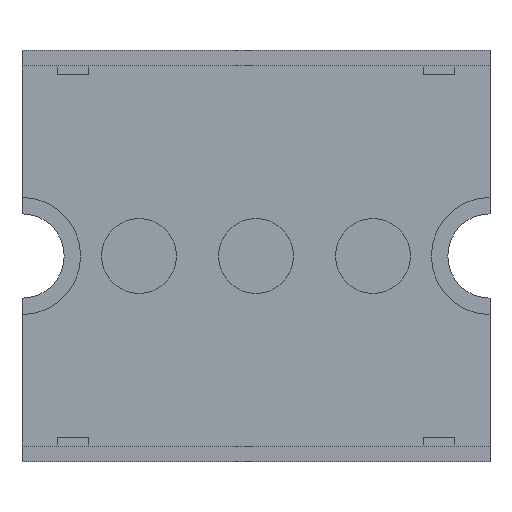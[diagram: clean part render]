
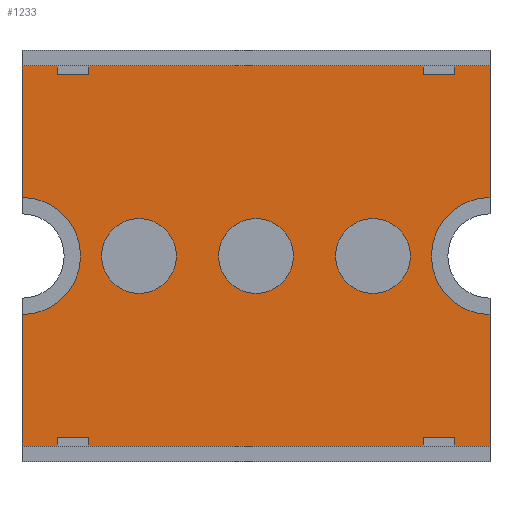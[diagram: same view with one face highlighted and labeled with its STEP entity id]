
A CAD part, front view. The second image highlights one B-rep face of the part: STEP entity #1233.
In plain terms, the highlighted planar face has unit normal (0, -1, 0).
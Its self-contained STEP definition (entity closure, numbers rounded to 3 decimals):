
#4 = CARTESIAN_POINT ( 'NONE',  ( 5., 10., 0. ) ) ;
#45 = CARTESIAN_POINT ( 'NONE',  ( 30., 10., 0. ) ) ;
#63 = AXIS2_PLACEMENT_3D ( 'NONE', #1517, #1527, #862 ) ;
#77 = DIRECTION ( 'NONE',  ( 0., -1., 0. ) ) ;
#96 = EDGE_CURVE ( 'NONE', #410, #577, #1102, .T. ) ;
#106 = ORIENTED_EDGE ( 'NONE', *, *, #1727, .F. ) ;
#107 = CARTESIAN_POINT ( 'NONE',  ( 55., 10., 20.3 ) ) ;
#108 = DIRECTION ( 'NONE',  ( 0., 0., -1. ) ) ;
#116 = DIRECTION ( 'NONE',  ( 0., 0., -1. ) ) ;
#122 = EDGE_CURVE ( 'NONE', #1842, #1272, #1357, .T. ) ;
#136 = CIRCLE ( 'NONE', #1299, 6.25 ) ;
#155 = ORIENTED_EDGE ( 'NONE', *, *, #96, .F. ) ;
#163 = DIRECTION ( 'NONE',  ( 0., 0., -1. ) ) ;
#164 = DIRECTION ( 'NONE',  ( 1., 0., 0. ) ) ;
#211 = ORIENTED_EDGE ( 'NONE', *, *, #122, .F. ) ;
#216 = ORIENTED_EDGE ( 'NONE', *, *, #406, .F. ) ;
#271 = AXIS2_PLACEMENT_3D ( 'NONE', #1509, #77, #559 ) ;
#303 = EDGE_CURVE ( 'NONE', #1368, #695, #1144, .T. ) ;
#319 = DIRECTION ( 'NONE',  ( 0., 0., -1. ) ) ;
#339 = CARTESIAN_POINT ( 'NONE',  ( -50., 10., -20.3 ) ) ;
#356 = VERTEX_POINT ( 'NONE', #1652 ) ;
#369 = AXIS2_PLACEMENT_3D ( 'NONE', #650, #1612, #163 ) ;
#406 = EDGE_CURVE ( 'NONE', #356, #1327, #934, .T. ) ;
#410 = VERTEX_POINT ( 'NONE', #1019 ) ;
#443 = CARTESIAN_POINT ( 'NONE',  ( 5., 10., 20.3 ) ) ;
#446 = EDGE_CURVE ( 'NONE', #1030, #1718, #1795, .T. ) ;
#459 = EDGE_CURVE ( 'NONE', #577, #410, #1234, .T. ) ;
#466 = ORIENTED_EDGE ( 'NONE', *, *, #1856, .T. ) ;
#513 = EDGE_LOOP ( 'NONE', ( #1392, #1504 ) ) ;
#552 = DIRECTION ( 'NONE',  ( 0., 0., -1. ) ) ;
#553 = VECTOR ( 'NONE', #1067, 1000. ) ;
#559 = DIRECTION ( 'NONE',  ( 0., 0., -1. ) ) ;
#560 = DIRECTION ( 'NONE',  ( 0., -1., 0. ) ) ;
#563 = CIRCLE ( 'NONE', #1534, 4. ) ;
#564 = DIRECTION ( 'NONE',  ( 0., 0., -1. ) ) ;
#577 = VERTEX_POINT ( 'NONE', #1365 ) ;
#589 = CARTESIAN_POINT ( 'NONE',  ( 0., 10., 0. ) ) ;
#596 = LINE ( 'NONE', #1976, #553 ) ;
#650 = CARTESIAN_POINT ( 'NONE',  ( 17.5, 10., 0. ) ) ;
#655 = EDGE_CURVE ( 'NONE', #1008, #1842, #136, .T. ) ;
#659 = VECTOR ( 'NONE', #116, 1000. ) ;
#681 = EDGE_CURVE ( 'NONE', #887, #1523, #1038, .T. ) ;
#684 = ORIENTED_EDGE ( 'NONE', *, *, #1320, .F. ) ;
#695 = VERTEX_POINT ( 'NONE', #1428 ) ;
#714 = PLANE ( 'NONE',  #1562 ) ;
#717 = DIRECTION ( 'NONE',  ( 0., 0., -1. ) ) ;
#719 = DIRECTION ( 'NONE',  ( 0., 0., 1. ) ) ;
#720 = VECTOR ( 'NONE', #719, 1000. ) ;
#739 = EDGE_LOOP ( 'NONE', ( #216, #1344 ) ) ;
#753 = LINE ( 'NONE', #107, #1318 ) ;
#754 = CARTESIAN_POINT ( 'NONE',  ( 55., 10., 20.3 ) ) ;
#769 = CARTESIAN_POINT ( 'NONE',  ( 5., 10., -20.3 ) ) ;
#804 = EDGE_CURVE ( 'NONE', #1523, #887, #1702, .T. ) ;
#854 = CARTESIAN_POINT ( 'NONE',  ( 55., 10., 0. ) ) ;
#862 = DIRECTION ( 'NONE',  ( 0., 0., -1. ) ) ;
#887 = VERTEX_POINT ( 'NONE', #1215 ) ;
#893 = CARTESIAN_POINT ( 'NONE',  ( 5., 10., -20.3 ) ) ;
#898 = AXIS2_PLACEMENT_3D ( 'NONE', #854, #1351, #717 ) ;
#934 = CIRCLE ( 'NONE', #1469, 4. ) ;
#1008 = VERTEX_POINT ( 'NONE', #1755 ) ;
#1019 = CARTESIAN_POINT ( 'NONE',  ( 30., 10., 4. ) ) ;
#1030 = VERTEX_POINT ( 'NONE', #2054 ) ;
#1038 = CIRCLE ( 'NONE', #369, 4. ) ;
#1044 = LINE ( 'NONE', #893, #720 ) ;
#1048 = FACE_BOUND ( 'NONE', #739, .T. ) ;
#1053 = CARTESIAN_POINT ( 'NONE',  ( 42.5, 10., 0. ) ) ;
#1067 = DIRECTION ( 'NONE',  ( -1., 0., 0. ) ) ;
#1094 = DIRECTION ( 'NONE',  ( 0., 0., 1. ) ) ;
#1102 = CIRCLE ( 'NONE', #63, 4. ) ;
#1114 = VERTEX_POINT ( 'NONE', #1305 ) ;
#1124 = ORIENTED_EDGE ( 'NONE', *, *, #655, .F. ) ;
#1144 = LINE ( 'NONE', #339, #1266 ) ;
#1194 = CARTESIAN_POINT ( 'NONE',  ( 42.5, 10., 0. ) ) ;
#1215 = CARTESIAN_POINT ( 'NONE',  ( 17.5, 10., -4. ) ) ;
#1232 = FACE_BOUND ( 'NONE', #513, .T. ) ;
#1233 = ADVANCED_FACE ( 'NONE', ( #1048, #1391, #1232, #1691 ), #714, .T. ) ;
#1234 = CIRCLE ( 'NONE', #2062, 4. ) ;
#1266 = VECTOR ( 'NONE', #164, 1000. ) ;
#1272 = VERTEX_POINT ( 'NONE', #443 ) ;
#1299 = AXIS2_PLACEMENT_3D ( 'NONE', #4, #1573, #319 ) ;
#1305 = CARTESIAN_POINT ( 'NONE',  ( 55., 10., 20.3 ) ) ;
#1318 = VECTOR ( 'NONE', #552, 1000. ) ;
#1320 = EDGE_CURVE ( 'NONE', #1114, #1030, #1549, .T. ) ;
#1327 = VERTEX_POINT ( 'NONE', #1710 ) ;
#1344 = ORIENTED_EDGE ( 'NONE', *, *, #1677, .F. ) ;
#1351 = DIRECTION ( 'NONE',  ( 0., -1., 0. ) ) ;
#1357 = LINE ( 'NONE', #769, #1662 ) ;
#1365 = CARTESIAN_POINT ( 'NONE',  ( 30., 10., -4. ) ) ;
#1368 = VERTEX_POINT ( 'NONE', #1720 ) ;
#1391 = FACE_BOUND ( 'NONE', #1679, .T. ) ;
#1392 = ORIENTED_EDGE ( 'NONE', *, *, #804, .F. ) ;
#1428 = CARTESIAN_POINT ( 'NONE',  ( 55., 10., -20.3 ) ) ;
#1431 = ORIENTED_EDGE ( 'NONE', *, *, #446, .F. ) ;
#1457 = EDGE_LOOP ( 'NONE', ( #1124, #106, #1883, #1774, #1431, #684, #466, #211 ) ) ;
#1469 = AXIS2_PLACEMENT_3D ( 'NONE', #1194, #560, #1510 ) ;
#1504 = ORIENTED_EDGE ( 'NONE', *, *, #681, .F. ) ;
#1509 = CARTESIAN_POINT ( 'NONE',  ( 17.5, 10., 0. ) ) ;
#1510 = DIRECTION ( 'NONE',  ( 0., 0., -1. ) ) ;
#1517 = CARTESIAN_POINT ( 'NONE',  ( 30., 10., 0. ) ) ;
#1523 = VERTEX_POINT ( 'NONE', #1770 ) ;
#1527 = DIRECTION ( 'NONE',  ( 0., -1., 0. ) ) ;
#1534 = AXIS2_PLACEMENT_3D ( 'NONE', #1053, #1820, #564 ) ;
#1549 = LINE ( 'NONE', #754, #659 ) ;
#1562 = AXIS2_PLACEMENT_3D ( 'NONE', #589, #1866, #108 ) ;
#1573 = DIRECTION ( 'NONE',  ( 0., -1., 0. ) ) ;
#1580 = CARTESIAN_POINT ( 'NONE',  ( 5., 10., 6.25 ) ) ;
#1608 = ORIENTED_EDGE ( 'NONE', *, *, #459, .F. ) ;
#1612 = DIRECTION ( 'NONE',  ( 0., -1., 0. ) ) ;
#1634 = DIRECTION ( 'NONE',  ( 0., -1., 0. ) ) ;
#1652 = CARTESIAN_POINT ( 'NONE',  ( 42.5, 10., 4. ) ) ;
#1662 = VECTOR ( 'NONE', #1094, 1000. ) ;
#1677 = EDGE_CURVE ( 'NONE', #1327, #356, #563, .T. ) ;
#1679 = EDGE_LOOP ( 'NONE', ( #155, #1608 ) ) ;
#1691 = FACE_OUTER_BOUND ( 'NONE', #1457, .T. ) ;
#1702 = CIRCLE ( 'NONE', #271, 4. ) ;
#1710 = CARTESIAN_POINT ( 'NONE',  ( 42.5, 10., -4. ) ) ;
#1718 = VERTEX_POINT ( 'NONE', #2010 ) ;
#1720 = CARTESIAN_POINT ( 'NONE',  ( 5., 10., -20.3 ) ) ;
#1727 = EDGE_CURVE ( 'NONE', #1368, #1008, #1044, .T. ) ;
#1755 = CARTESIAN_POINT ( 'NONE',  ( 5., 10., -6.25 ) ) ;
#1770 = CARTESIAN_POINT ( 'NONE',  ( 17.5, 10., 4. ) ) ;
#1774 = ORIENTED_EDGE ( 'NONE', *, *, #1857, .F. ) ;
#1785 = DIRECTION ( 'NONE',  ( 0., 0., -1. ) ) ;
#1795 = CIRCLE ( 'NONE', #898, 6.25 ) ;
#1820 = DIRECTION ( 'NONE',  ( 0., -1., 0. ) ) ;
#1842 = VERTEX_POINT ( 'NONE', #1580 ) ;
#1856 = EDGE_CURVE ( 'NONE', #1114, #1272, #596, .T. ) ;
#1857 = EDGE_CURVE ( 'NONE', #1718, #695, #753, .T. ) ;
#1866 = DIRECTION ( 'NONE',  ( 0., -1., 0. ) ) ;
#1883 = ORIENTED_EDGE ( 'NONE', *, *, #303, .T. ) ;
#1976 = CARTESIAN_POINT ( 'NONE',  ( 50., 10., 20.3 ) ) ;
#2010 = CARTESIAN_POINT ( 'NONE',  ( 55., 10., -6.25 ) ) ;
#2054 = CARTESIAN_POINT ( 'NONE',  ( 55., 10., 6.25 ) ) ;
#2062 = AXIS2_PLACEMENT_3D ( 'NONE', #45, #1634, #1785 ) ;
